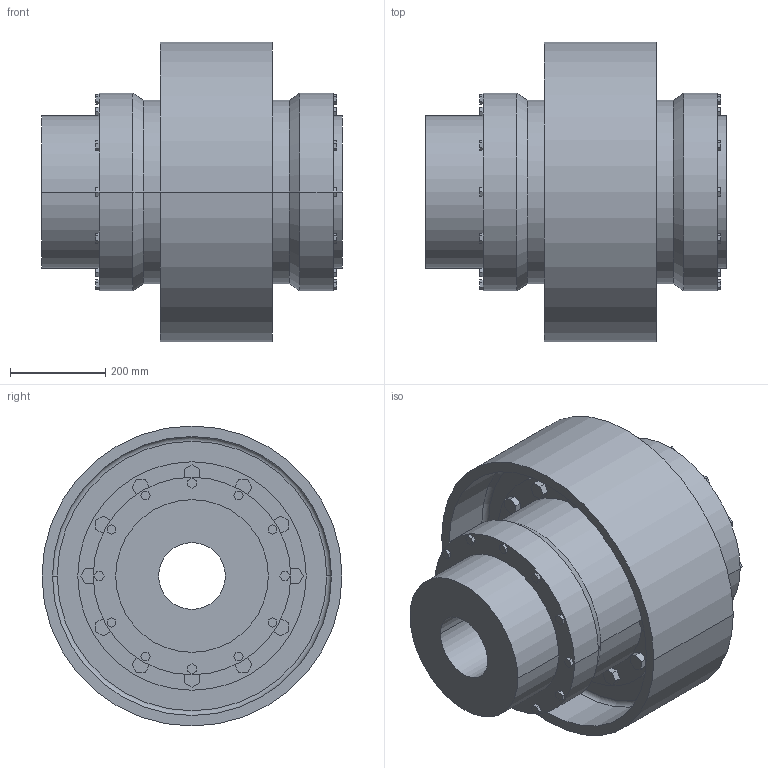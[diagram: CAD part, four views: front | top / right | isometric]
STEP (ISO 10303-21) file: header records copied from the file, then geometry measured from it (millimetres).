
FILE_DESCRIPTION((''),'2;1');
FILE_NAME('A19735200-0_ASM','2019-05-23T',('AB_Roschiwal'),('RENK AG'),'PRO/ENGINEER BY PARAMETRIC TECHNOLOGY CORPORATION, 2015440','PRO/ENGINEER BY PARAMETRIC TECHNOLOGY CORPORATION, 2015440','');
FILE_SCHEMA(('CONFIG_CONTROL_DESIGN'));
Length unit declared in the file: millimetre
Products named in the file (4): SBKD200_GEHAEUSE; SBKD200_NABE; SBKD200_BREMSSCHEIBE; A19735200-0_ASM
Assembly tree (4 placements, depth 2):
  A19735200-0_ASM
    SBKD200_GEHAEUSE
    SBKD200_NABE  x2
    SBKD200_BREMSSCHEIBE
Bounding box: 632 x 630 x 630 mm (x, y, z)
Volume: 64269873.8 mm3; surface area: 3942590.6 mm2
Topology: 4 solids, 4 shells, 474 faces, 1164 edges, 772 vertices
Faces by surface type: plane 370, cylinder 96, cone 4, torus 4
Entity records: 13708 total; most frequent: CARTESIAN_POINT 2366, ORIENTED_EDGE 2280, DIRECTION 2264, EDGE_CURVE 1140, VECTOR 956, LINE 956, VERTEX_POINT 756, AXIS2_PLACEMENT_3D 654
